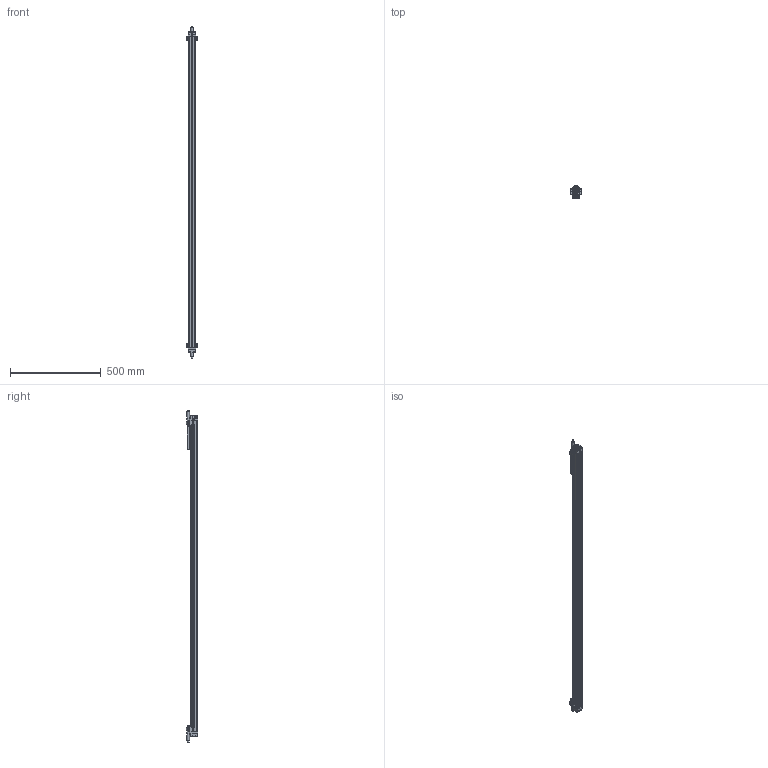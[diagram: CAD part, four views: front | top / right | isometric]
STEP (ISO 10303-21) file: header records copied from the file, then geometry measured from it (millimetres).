
FILE_DESCRIPTION (( 'STEP AP203' ), '1' );
FILE_NAME ('MXP25N_SN_SK62.000_MXP-492590-1.step', '2025-07-10T18:52:50', ( '' ), ( '' ), 'SwSTEP 2.0', 'SolidWorks 2024', '' );
FILE_SCHEMA (( 'CONFIG_CONTROL_DESIGN' ));
Length unit declared in the file: inch
Products named in the file (6): 81259500_MXP25N_SN_SK62.000_MXP-492590-1; 81259521_MXP25N_SN_SK62.000_MXP-492590-1; 49101338_MXP25N_SN_SK62.000_MXP-492590-1; MXP25N_SN_SK62.000_MXP-492590-1; 81259023_MXP25N_SN_SK62.000_MXP-492590-1; Base_MXP25N_SN_SK62.000_MXP-492590-1
Assembly tree (7 placements, depth 2):
  MXP25N_SN_SK62.000_MXP-492590-1
    81259521_MXP25N_SN_SK62.000_MXP-492590-1
    81259500_MXP25N_SN_SK62.000_MXP-492590-1
    49101338_MXP25N_SN_SK62.000_MXP-492590-1  x2
    81259023_MXP25N_SN_SK62.000_MXP-492590-1  x2
    Base_MXP25N_SN_SK62.000_MXP-492590-1
Bounding box: 62 x 65.56 x 1831.26 mm (x, y, z)
Volume: 2055022.7 mm3; surface area: 615020.7 mm2
Topology: 7 solids, 17 shells, 1304 faces, 3157 edges, 1998 vertices
Faces by surface type: plane 753, cylinder 354, cone 99, torus 48, bspline 34, sphere 16
Full cylindrical faces by diameter (mm): 3 x4, 3.454 x14, 3.5 x4, 3.797 x8, 4 x2, 4.064 x2, 4.166 x8, 4.318 x2, 5 x8, 5.5 x6, 6 x4, 6.4 x2, 6.858 x8, 7.56 x2, 7.9 x8, 8.433 x6, 8.5 x8, 10.16 x8, 10.75 x2, 11.176 x2, 12.5 x2, 14 x4, 24.5 x1
Entity records: 34242 total; most frequent: CARTESIAN_POINT 7154, DIRECTION 5565, ORIENTED_EDGE 5130, EDGE_CURVE 2565, AXIS2_PLACEMENT_3D 1944, VERTEX_POINT 1707, LINE 1677, VECTOR 1677
